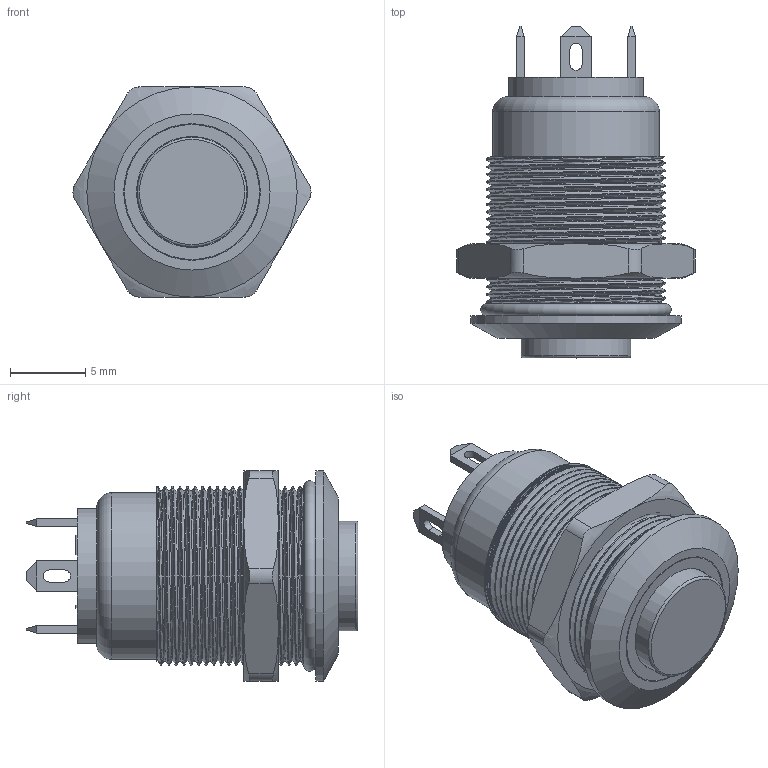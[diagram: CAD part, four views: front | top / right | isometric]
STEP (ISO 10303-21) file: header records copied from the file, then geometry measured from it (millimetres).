
FILE_DESCRIPTION(/* description */ (''),/* implementation_level */ '2;1');
FILE_NAME(/* name */ 'push button 12mm.step',/* time_stamp */ '2026-02-23T15:27:46+02:00',/* author */ (''),/* organization */ (''),/* preprocessor_version */ 'ST-DEVELOPER v20.1',/* originating_system */ 'Autodesk Translation Framework v14.24.0.0',/* authorisation */ '');
FILE_SCHEMA (('AUTOMOTIVE_DESIGN { 1 0 10303 214 3 1 1 }'));
Length unit declared in the file: millimetre
Products named in the file (11): push button 12mm; Component1; Component2; Component3; Component4; Component5; Component6; Component7; Component8; Component9; Component10
Assembly tree (10 placements, depth 2):
  push button 12mm
    Component1
    Component2
    Component3
    Component4
    Component5
    Component6
    Component7
    Component8
    Component9
    Component10
Bounding box: 15.86 x 22.1 x 14 mm (x, y, z)
Volume: 1164.9 mm3; surface area: 2585.6 mm2
Topology: 10 solids, 10 shells, 203 faces, 516 edges, 338 vertices
Faces by surface type: plane 107, cylinder 76, torus 15, bspline 4, cone 1
Full cylindrical faces by diameter (mm): 1.3 x1, 7.3 x1, 7.4 x1, 9 x2, 9.1 x2, 11.1 x2, 11.348 x18, 11.529 x3, 11.927 x19, 12.096 x4, 14 x1
Entity records: 12509 total; most frequent: CARTESIAN_POINT 7464, ORIENTED_EDGE 1032, DIRECTION 861, EDGE_CURVE 516, VERTEX_POINT 338, LINE 291, VECTOR 291, AXIS2_PLACEMENT_3D 285
